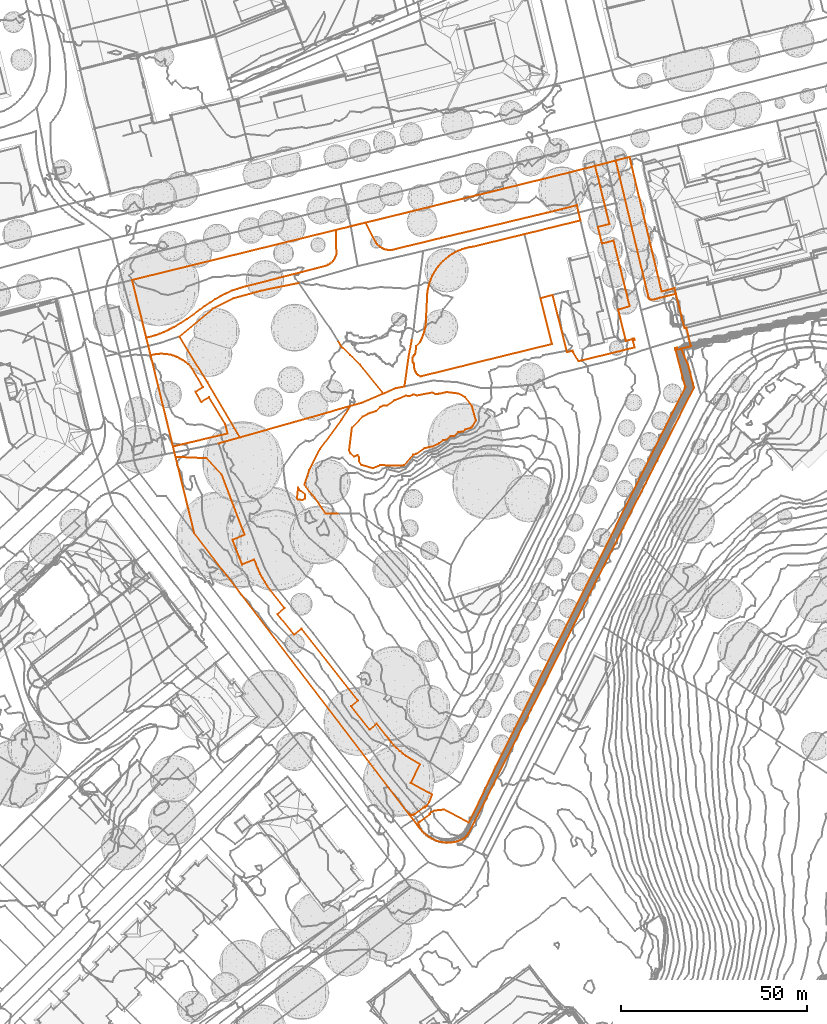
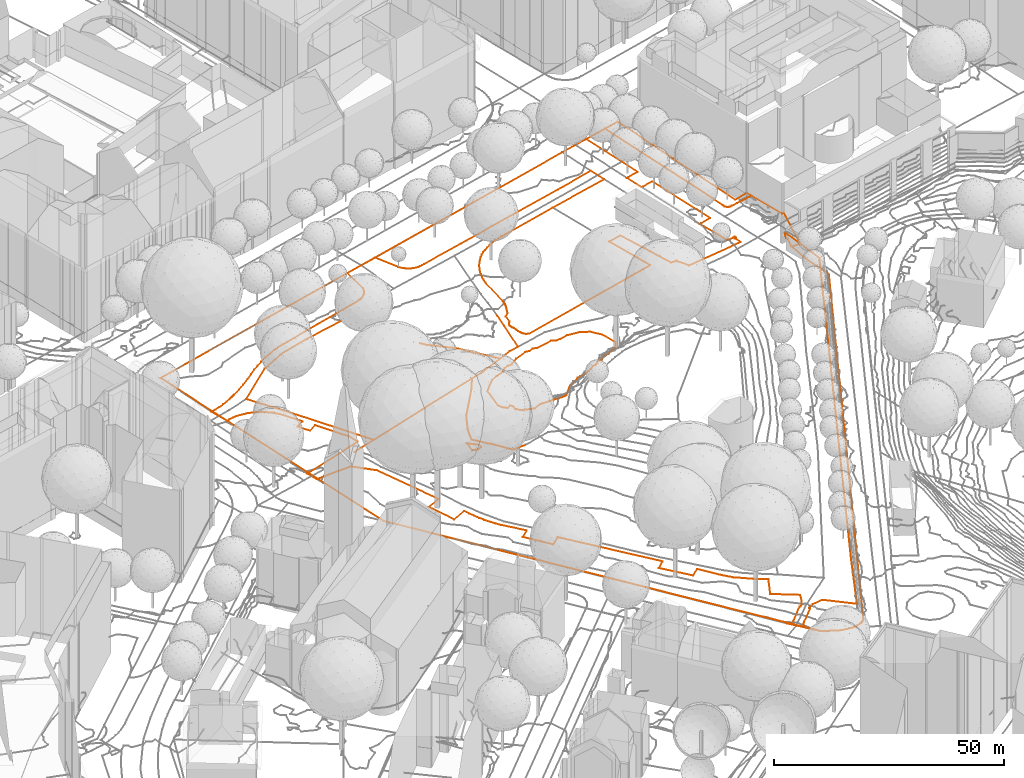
# Not in any storey, part 170 of 494: 14 proxies.
"""IFC2X3 model written with IfcOpenShell, lengths in metres."""

from ifc_helpers import new_model, entity, si_unit, frame, origin_with_axes, place, context, subcontext, project, element, save


model = new_model("IFC2X3")

# Units and contexts
model_context = context("Model", 3, precision=1e-05, world=origin_with_axes())
body_context = subcontext(model_context, "Body", "Model", "MODEL_VIEW")
ifc_project = project(units=[si_unit("AREAUNIT", "SQUARE_METRE"), si_unit("LENGTHUNIT", "METRE")], contexts=[model_context])

# Proxies
proxy_1_placement = place(None, frame((176.7457320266, 315.7657335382, 539.155), z_axis=(0.0, 0.0, 1.0), x_axis=(1.0, 0.0, 0.0)))
element("IfcBuildingElementProxy", 1, at=proxy_1_placement, Name="Road 10", ObjectType="NOTDEFINED", context=body_context, shape_type="GeometricCurveSet", body=[
    entity("IfcGeometricCurveSet", [entity("IfcPolyline", [entity("IfcCartesianPoint", [0.0, 0.0, 0.0]), entity("IfcCartesianPoint", [7.4880000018, -12.3349996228, 0.053]), entity("IfcCartesianPoint", [16.298, -27.1659991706, -0.083])])]),
])
proxy_2_placement = place(None, frame((187.3177320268, 286.9847344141, 538.828), z_axis=(0.0, 0.0, 1.0), x_axis=(1.0, 0.0, 0.0)))
element("IfcBuildingElementProxy", 2, at=proxy_2_placement, Name="Road 12", ObjectType="NOTDEFINED", context=body_context, shape_type="GeometricCurveSet", body=[
    entity("IfcGeometricCurveSet", [entity("IfcPolyline", [entity("IfcCartesianPoint", [5.7259999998, 1.6149999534, 0.244]), entity("IfcCartesianPoint", [0.0, 0.0, 0.0])])]),
])
proxy_3_placement = place(None, frame((176.7457320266, 315.7657335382, 539.155), z_axis=(0.0, 0.0, 1.0), x_axis=(1.0, 0.0, 0.0)))
element("IfcBuildingElementProxy", 3, at=proxy_3_placement, Name="Road 14", ObjectType="NOTDEFINED", context=body_context, shape_type="GeometricCurveSet", body=[
    entity("IfcGeometricCurveSet", [entity("IfcPolyline", [entity("IfcCartesianPoint", [32.1579999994, 14.3909995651, 0.748]), entity("IfcCartesianPoint", [22.0260000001, 12.3349996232, 0.605]), entity("IfcCartesianPoint", [14.5370000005, 10.2799996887, 0.52]), entity("IfcCartesianPoint", [8.9569999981, 7.4899997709, 0.381]), entity("IfcCartesianPoint", [0.0, 0.0, 0.0])])]),
])
proxy_4_placement = place(None, frame((222.6197320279, 310.777733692, 540.078), z_axis=(0.0, 0.0, 1.0), x_axis=(1.0, 0.0, 0.0)))
element("IfcBuildingElementProxy", 4, at=proxy_4_placement, Name="Road 15", ObjectType="NOTDEFINED", context=body_context, shape_type="GeometricCurveSet", body=[
    entity("IfcGeometricCurveSet", [entity("IfcPolyline", [entity("IfcCartesianPoint", [0.0, 0.0, 0.0]), entity("IfcCartesianPoint", [2.7309999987, -2.6469999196, 0.138]), entity("IfcCartesianPoint", [9.0409999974, -10.3629996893, -0.108])])]),
])
proxy_5_placement = place(None, frame((231.6607320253, 300.4147340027, 539.97), z_axis=(0.0, 0.0, 1.0), x_axis=(1.0, 0.0, 0.0)))
element("IfcBuildingElementProxy", 5, at=proxy_5_placement, Name="Road 61", ObjectType="NOTDEFINED", context=body_context, shape_type="GeometricCurveSet", body=[
    entity("IfcGeometricCurveSet", [entity("IfcPolyline", [entity("IfcCartesianPoint", [0.0, 0.0, 0.0]), entity("IfcCartesianPoint", [3.2349999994, 1.4009999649, -0.027]), entity("IfcCartesianPoint", [5.6420000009, 1.8969999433, 0.046])])]),
])
proxy_6_placement = place(None, frame((210.3617320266, 275.9087347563, 540.775), z_axis=(0.0, 0.0, 1.0), x_axis=(1.0, 0.0, 0.0)))
element("IfcBuildingElementProxy", 6, at=proxy_6_placement, Name="Road 69", ObjectType="NOTDEFINED", context=body_context, shape_type="GeometricCurveSet", body=[
    entity("IfcGeometricCurveSet", [entity("IfcPolyline", [entity("IfcCartesianPoint", [8.9970000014, -7.8669997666, 0.244]), entity("IfcCartesianPoint", [5.7369999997, -7.8669997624, 0.117]), entity("IfcCartesianPoint", [2.7199999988, -3.4619998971, 0.085]), entity("IfcCartesianPoint", [2.2609999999, -3.0319999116, 0.055]), entity("IfcCartesianPoint", [0.0, 0.0, 0.0]), entity("IfcCartesianPoint", [1.2919999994, 3.885999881, 0.0]), entity("IfcCartesianPoint", [4.1519999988, 9.4959997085, -0.77]), entity("IfcCartesianPoint", [10.0269999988, 17.4559994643, -0.894]), entity("IfcCartesianPoint", [12.3289999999, 21.1199993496, -0.85])])]),
])
proxy_7_placement = place(None, frame((193.0437320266, 288.5997343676, 539.072), z_axis=(0.0, 0.0, 1.0), x_axis=(1.0, 0.0, 0.0)))
element("IfcBuildingElementProxy", 7, at=proxy_7_placement, Name="Road 70", ObjectType="NOTDEFINED", context=body_context, shape_type="GeometricCurveSet", body=[
    entity("IfcGeometricCurveSet", [entity("IfcPolyline", [entity("IfcCartesianPoint", [0.0, 0.0, 0.0]), entity("IfcCartesianPoint", [14.5390000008, 4.1119998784, 0.455]), entity("IfcCartesianPoint", [29.6469999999, 8.4289997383, 0.853])])]),
])
proxy_8_placement = place(None, frame((222.6907320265, 297.0287341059, 539.925), z_axis=(0.0, 0.0, 1.0), x_axis=(1.0, 0.0, 0.0)))
element("IfcBuildingElementProxy", 8, at=proxy_8_placement, Name="Road 71", ObjectType="NOTDEFINED", context=body_context, shape_type="GeometricCurveSet", body=[
    entity("IfcGeometricCurveSet", [entity("IfcPolyline", [entity("IfcCartesianPoint", [0.0, 0.0, 0.0]), entity("IfcCartesianPoint", [3.3929999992, 0.9699999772, 0.09]), entity("IfcCartesianPoint", [8.9699999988, 3.3859998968, 0.045])])]),
])
proxy_9_placement = place(None, frame((219.4737320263, 314.4977335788, 539.821), z_axis=(0.0, 0.0, 1.0), x_axis=(1.0, 0.0, 0.0)))
element("IfcBuildingElementProxy", 9, at=proxy_9_placement, Name="Road 86", ObjectType="NOTDEFINED", context=body_context, shape_type="GeometricCurveSet", body=[
    entity("IfcGeometricCurveSet", [entity("IfcPolyline", [entity("IfcCartesianPoint", [0.0, 0.0, 0.0]), entity("IfcCartesianPoint", [1.0300000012, -1.6679999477, 0.15]), entity("IfcCartesianPoint", [3.1460000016, -3.7199998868, 0.257])])]),
])
proxy_10_placement = place(None, frame((237.3027320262, 302.311733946, 540.016), z_axis=(0.0, 0.0, 1.0), x_axis=(1.0, 0.0, 0.0)))
element("IfcBuildingElementProxy", 10, at=proxy_10_placement, Name="Road 102", ObjectType="NOTDEFINED", context=body_context, shape_type="GeometricCurveSet", body=[
    entity("IfcGeometricCurveSet", [entity("IfcPolyline", [entity("IfcCartesianPoint", [0.0, 0.0, 0.0]), entity("IfcCartesianPoint", [1.1160000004, 8.0219997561, 0.339]), entity("IfcCartesianPoint", [1.9519999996, 12.4769996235, 0.08])])]),
])
proxy_11_placement = place(None, frame((167.7977320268, 315.4537160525, 539.1190123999), z_axis=(0.0, 0.0, 1.0), x_axis=(1.0, 0.0, 0.0)))
element("IfcBuildingElementProxy", 11, at=proxy_11_placement, Name="Roads Outline 88", ObjectType="NOTDEFINED", context=body_context, shape_type="GeometricCurveSet", body=[
    entity("IfcGeometricCurveSet", [entity("IfcPolyline", [entity("IfcCartesianPoint", [0.0, 0.0, 0.0]), entity("IfcCartesianPoint", [1.23, 0.2749999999, 0.0247682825]), entity("IfcCartesianPoint", [2.4419999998, 0.622, 0.0418491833]), entity("IfcCartesianPoint", [3.6310000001, 1.0389999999, 0.0828519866]), entity("IfcCartesianPoint", [4.7939999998, 1.5249999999, 0.1121502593]), entity("IfcCartesianPoint", [5.9270000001, 2.078, 0.1517853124]), entity("IfcCartesianPoint", [6.3079999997, 2.273, 0.1626908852]), entity("IfcCartesianPoint", [6.6919999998, 2.4620000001, 0.1724767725]), entity("IfcCartesianPoint", [7.0729999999, 2.6539999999, 0.1835700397]), entity("IfcCartesianPoint", [7.4470000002, 2.8599999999, 0.1937299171]), entity("IfcCartesianPoint", [9.2280000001, 3.9239999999, 0.2538667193]), entity("IfcCartesianPoint", [10.9699999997, 5.0489999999, 0.3406741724]), entity("IfcCartesianPoint", [12.673, 6.2349999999, 0.3969343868]), entity("IfcCartesianPoint", [14.3319999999, 7.48, 0.4475886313]), entity("IfcCartesianPoint", [15.7029999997, 8.4979999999, 0.5061658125]), entity("IfcCartesianPoint", [17.1159999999, 9.459, 0.5333646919]), entity("IfcCartesianPoint", [18.5669999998, 10.3599999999, 0.5216708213]), entity("IfcCartesianPoint", [20.054, 11.2, 0.5452682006]), entity("IfcCartesianPoint", [21.5749999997, 11.977, 0.5502667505]), entity("IfcCartesianPoint", [23.1269999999, 12.6899999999, 0.621900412]), entity("IfcCartesianPoint", [24.409, 13.122, 0.6414065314]), entity("IfcCartesianPoint", [25.7069999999, 13.5079999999, 0.6457259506]), entity("IfcCartesianPoint", [27.017, 13.8459999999, 0.6606235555]), entity("IfcCartesianPoint", [36.0749999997, 16.176, 0.8224961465]), entity("IfcCartesianPoint", [45.6299999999, 18.628, 0.9505541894]), entity("IfcCartesianPoint", [48.5079999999, 19.3840000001, 1.0211709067]), entity("IfcCartesianPoint", [48.9980000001, 19.6099999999, 1.0363624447]), entity("IfcCartesianPoint", [49.4559999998, 19.8959999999, 1.0636517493]), entity("IfcCartesianPoint", [49.875, 20.236, 1.0910575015]), entity("IfcCartesianPoint", [50.2480000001, 20.625, 1.1108906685]), entity("IfcCartesianPoint", [50.5699999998, 21.058, 1.119086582]), entity("IfcCartesianPoint", [50.8360000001, 21.527, 1.1349815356]), entity("IfcCartesianPoint", [51.0409999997, 22.0260000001, 1.1584559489]), entity("IfcCartesianPoint", [51.1829999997, 22.547, 1.1813867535]), entity("IfcCartesianPoint", [51.057, 28.9979999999, 1.4121354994]), entity("IfcCartesianPoint", [59.0490000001, 30.9620000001, 1.4512466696]), entity("IfcCartesianPoint", [61.8079999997, 25.638, 1.2332053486]), entity("IfcCartesianPoint", [62.1400000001, 25.1839999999, 1.223659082]), entity("IfcCartesianPoint", [62.5260000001, 24.7760000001, 1.2173980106]), entity("IfcCartesianPoint", [62.96, 24.419, 1.2155958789]), entity("IfcCartesianPoint", [63.4350000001, 24.1199999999, 1.2076188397]), entity("IfcCartesianPoint", [63.9449999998, 23.8829999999, 1.1877098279]), entity("IfcCartesianPoint", [64.48, 23.7120000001, 1.1826396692]), entity("IfcCartesianPoint", [65.0329999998, 23.6089999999, 1.1826437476]), entity("IfcCartesianPoint", [65.594, 23.577, 1.1808178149]), entity("IfcCartesianPoint", [66.1540000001, 23.6159999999, 1.1845281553]), entity("IfcCartesianPoint", [66.7059999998, 23.7249999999, 1.1892558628]), entity("IfcCartesianPoint", [67.2390000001, 23.902, 1.1950226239]), entity("IfcCartesianPoint", [78.0649999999, 26.504, 1.2867964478]), entity("IfcCartesianPoint", [79.6359999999, 26.889, 1.3133347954]), entity("IfcCartesianPoint", [106.3089999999, 33.2409999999, 1.6732010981]), entity("IfcCartesianPoint", [107.8789999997, 33.622, 1.6832727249]), entity("IfcCartesianPoint", [115.9249999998, 35.649, 1.7806102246]), entity("IfcCartesianPoint", [116.898, 31.544, 1.6638894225]), entity("IfcCartesianPoint", [101.8169999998, 27.858, 1.6404392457]), entity("IfcCartesianPoint", [88.0010000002, 24.473, 1.4170740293]), entity("IfcCartesianPoint", [87.0, 24.3200000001, 1.3737373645]), entity("IfcCartesianPoint", [86.0129999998, 24.0959999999, 1.3122562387]), entity("IfcCartesianPoint", [85.0449999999, 23.8, 1.2736646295]), entity("IfcCartesianPoint", [84.1000000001, 23.436, 1.2231697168]), entity("IfcCartesianPoint", [83.1839999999, 23.004, 1.1887243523]), entity("IfcCartesianPoint", [82.3020000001, 22.5079999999, 1.1771721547]), entity("IfcCartesianPoint", [81.4569999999, 21.949, 1.1588859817]), entity("IfcCartesianPoint", [80.656, 21.331, 1.178832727]), entity("IfcCartesianPoint", [79.9010000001, 20.656, 1.2104499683]), entity("IfcCartesianPoint", [79.196, 19.929, 1.2222075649]), entity("IfcCartesianPoint", [78.5460000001, 19.1529999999, 1.1966565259]), entity("IfcCartesianPoint", [77.9539999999, 18.3319999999, 1.1546735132]), entity("IfcCartesianPoint", [77.4219999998, 17.47, 1.0927785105]), entity("IfcCartesianPoint", [76.9539999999, 16.5719999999, 1.0256709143]), entity("IfcCartesianPoint", [76.5520000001, 15.6429999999, 0.9550855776]), entity("IfcCartesianPoint", [76.2179999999, 14.6869999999, 0.8982017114]), entity("IfcCartesianPoint", [75.9539999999, 13.71, 0.8575851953]), entity("IfcCartesianPoint", [75.7609999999, 12.716, 0.8104525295]), entity("IfcCartesianPoint", [75.6400000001, 11.7109999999, 0.7646408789]), entity("IfcCartesianPoint", [75.227, 3.5719999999, 0.967397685]), entity("IfcCartesianPoint", [75.1260000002, 2.8829999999, 1.0286340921]), entity("IfcCartesianPoint", [74.983, 2.2009999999, 1.0824014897]), entity("IfcCartesianPoint", [74.9389999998, 2.024, 1.1072632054]), entity("IfcCartesianPoint", [74.892, 1.8470000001, 1.1307639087]), entity("IfcCartesianPoint", [74.7689999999, 1.429, 1.1800219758]), entity("IfcCartesianPoint", [74.6299999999, 1.0149999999, 1.2049191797]), entity("IfcCartesianPoint", [74.4890000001, 0.639, 1.2044462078]), entity("IfcCartesianPoint", [74.335, 0.2679999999, 1.1930262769]), entity("IfcCartesianPoint", [74.2039999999, -0.067, 1.1881508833]), entity("IfcCartesianPoint", [73.9529999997, -0.6699999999, 1.1874007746]), entity("IfcCartesianPoint", [73.6850000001, -1.2650000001, 1.2009177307]), entity("IfcCartesianPoint", [72.6829999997, -2.267, 1.2418795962]), entity("IfcCartesianPoint", [72.398, -4.486, 1.3121913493]), entity("IfcCartesianPoint", [72.1179999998, -4.7210000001, 1.2992383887]), entity("IfcCartesianPoint", [71.8930000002, -5.01, 1.2894331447]), entity("IfcCartesianPoint", [71.736, -5.3400000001, 1.2844921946]), entity("IfcCartesianPoint", [71.6510000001, -5.696, 1.2850829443]), entity("IfcCartesianPoint", [71.6439999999, -6.0619999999, 1.2769994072]), entity("IfcCartesianPoint", [71.7140000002, -6.4210000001, 1.270053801]), entity("IfcCartesianPoint", [71.8590000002, -6.757, 1.2694203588]), entity("IfcCartesianPoint", [72.071, -7.0549999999, 1.2787490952]), entity("IfcCartesianPoint", [72.057, -7.541, 1.2691529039]), entity("IfcCartesianPoint", [72.105, -8.0250000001, 1.2563769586]), entity("IfcCartesianPoint", [72.213, -8.4990000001, 1.2388046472]), entity("IfcCartesianPoint", [72.3810000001, -8.956, 1.217708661]), entity("IfcCartesianPoint", [72.6060000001, -9.388, 1.1956496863]), entity("IfcCartesianPoint", [72.8829999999, -9.787, 1.1700826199]), entity("IfcCartesianPoint", [73.2080000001, -10.149, 1.1795551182]), entity("IfcCartesianPoint", [73.821, -10.442, 1.2056348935]), entity("IfcCartesianPoint", [109.2149999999, -1.72, 1.7118456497]), entity("IfcCartesianPoint", [106.1299999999, 10.615, 1.6020691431]), entity("IfcCartesianPoint", [109.3969999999, 11.4809999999, 1.5600288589]), entity("IfcCartesianPoint", [113.2510000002, -3.906, 2.3029735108]), entity("IfcCartesianPoint", [114.827, -3.517, 2.0630988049]), entity("IfcCartesianPoint", [114.923, -3.905, 2.067803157]), entity("IfcCartesianPoint", [116.3769999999, -6.3489999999, 1.9570229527]), entity("IfcCartesianPoint", [131.5069999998, -2.645, 0.6462606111]), entity("IfcCartesianPoint", [131.0060000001, -0.8090000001, 0.6326984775]), entity("IfcCartesianPoint", [131.4909999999, -0.686, 0.5929234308]), entity("IfcCartesianPoint", [131.3689999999, -0.202, 0.5887255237]), entity("IfcCartesianPoint", [130.8840000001, -0.324, 0.6409020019]), entity("IfcCartesianPoint", [130.9079999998, -0.4199999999, 0.6387613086]), entity("IfcCartesianPoint", [129.1310000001, -0.8670000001, 0.8788356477]), entity("IfcCartesianPoint", [127.0600000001, 7.554, 0.8088673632]), entity("IfcCartesianPoint", [127.4890000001, 7.6739999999, 0.7622808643]), entity("IfcCartesianPoint", [130.1639999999, 8.425, 0.7708454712]), entity("IfcCartesianPoint", [125.8089999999, 26.0970000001, 1.2899789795]), entity("IfcCartesianPoint", [123.1680000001, 25.4469999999, 1.2818078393]), entity("IfcCartesianPoint", [122.6889999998, 25.3289999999, 1.2910866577]), entity("IfcCartesianPoint", [121.588, 29.804, 1.4678332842]), entity("IfcCartesianPoint", [122.068, 29.922, 1.4667258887]), entity("IfcCartesianPoint", [124.7059999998, 30.571, 1.494156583]), entity("IfcCartesianPoint", [120.8459999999, 46.233, 2.0636904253]), entity("IfcCartesianPoint", [120.8590000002, 46.237, 2.06439677]), entity("IfcCartesianPoint", [126.4070000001, 47.673, 2.02311273]), entity("IfcCartesianPoint", [135.0919999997, 11.3969999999, 0.6650601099]), entity("IfcCartesianPoint", [135.102, 11.1059999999, 0.6661332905]), entity("IfcCartesianPoint", [135.1880000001, 10.828, 0.6454258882]), entity("IfcCartesianPoint", [135.3449999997, 10.5819999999, 0.6247838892]), entity("IfcCartesianPoint", [135.5600000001, 10.3859999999, 0.6073768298]), entity("IfcCartesianPoint", [135.8190000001, 10.253, 0.5982929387]), entity("IfcCartesianPoint", [136.1039999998, 10.1939999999, 0.5950590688]), entity("IfcCartesianPoint", [136.395, 10.2109999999, 0.5922139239]), entity("IfcCartesianPoint", [136.6710000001, 10.304, 0.5861962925]), entity("IfcCartesianPoint", [138.3199999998, 10.7239999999, 0.488661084]), entity("IfcCartesianPoint", [142.5819999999, 11.8089999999, 0.3420835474]), entity("IfcCartesianPoint", [144.8939999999, 2.5889999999, 0.3526834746]), entity("IfcCartesianPoint", [145.4040000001, 2.709, 0.3502368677]), entity("IfcCartesianPoint", [146.6439999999, -2.341, -5.2313089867]), entity("IfcCartesianPoint", [146.432, -2.3929999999, -5.2436507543]), entity("IfcCartesianPoint", [144.0320000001, -2.98, -4.7871117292]), entity("IfcCartesianPoint", [143.003, -3.2320000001, -2.1408371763]), entity("IfcCartesianPoint", [142.8760000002, -2.75, -2.1907489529]), entity("IfcCartesianPoint", [142.392, -2.8770000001, -0.6498669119]), entity("IfcCartesianPoint", [142.5189999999, -3.3589999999, -0.4944391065]), entity("IfcCartesianPoint", [145.125, -13.257, -2.0117076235]), entity("IfcCartesianPoint", [94.0690000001, -115.4890000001, -2.0948531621]), entity("IfcCartesianPoint", [86.8279999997, -130.6230000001, -2.2323743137]), entity("IfcCartesianPoint", [80.1319999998, -127.064, -0.9714893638]), entity("IfcCartesianPoint", [77.5899999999, -127.3430000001, -1.0788913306]), entity("IfcCartesianPoint", [76.6829999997, -127.777, -1.1398480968]), entity("IfcCartesianPoint", [76.2229999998, -128.1140000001, -1.217925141]), entity("IfcCartesianPoint", [76.3649999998, -128.308, -1.2043424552]), entity("IfcCartesianPoint", [73.693, -130.2709999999, -2.7361494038]), entity("IfcCartesianPoint", [73.4819999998, -130.4739999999, -2.8656039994]), entity("IfcCartesianPoint", [73.3300000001, -130.7250000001, -2.9745926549]), entity("IfcCartesianPoint", [73.2489999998, -131.007, -3.0815037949]), entity("IfcCartesianPoint", [73.2439999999, -131.3, -3.1489841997]), entity("IfcCartesianPoint", [73.3149999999, -131.584, -3.184297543]), entity("IfcCartesianPoint", [73.4580000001, -131.8400000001, -3.1874261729]), entity("IfcCartesianPoint", [70.6809999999, -128.2040000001, -3.2684583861]), entity("IfcCartesianPoint", [70.9019999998, -128.3770000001, -3.2804389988]), entity("IfcCartesianPoint", [71.1570000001, -128.4939999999, -3.2809493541]), entity("IfcCartesianPoint", [71.4329999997, -128.5460000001, -3.2535916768]), entity("IfcCartesianPoint", [71.7140000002, -128.5320000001, -3.1586144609]), entity("IfcCartesianPoint", [71.983, -128.452, -3.0439791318]), entity("IfcCartesianPoint", [72.2250000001, -128.3100000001, -2.9152179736]), entity("IfcCartesianPoint", [74.8730000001, -126.3049999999, -1.3330918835]), entity("IfcCartesianPoint", [75.0180000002, -126.496, -1.3188504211]), entity("IfcCartesianPoint", [75.4729999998, -126.152, -1.1691149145]), entity("IfcCartesianPoint", [76.1600000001, -124.996, -1.0796673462]), entity("IfcCartesianPoint", [76.9339999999, -123.048, -0.9712881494]), entity("IfcCartesianPoint", [71.21, -119.8929999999, -0.6533056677]), entity("IfcCartesianPoint", [73.6379999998, -114.8900000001, -0.5353668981]), entity("IfcCartesianPoint", [70.8969999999, -113.2679999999, -0.532951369]), entity("IfcCartesianPoint", [70.8879999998, -113.2380000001, -0.5327554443]), entity("IfcCartesianPoint", [69.9509999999, -112.632, -0.4967809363]), entity("IfcCartesianPoint", [69.0520000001, -111.9720000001, -0.4653612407]), entity("IfcCartesianPoint", [68.193, -111.2609999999, -0.4917337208]), entity("IfcCartesianPoint", [67.378, -110.5, -0.5794491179]), entity("IfcCartesianPoint", [66.6090000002, -109.692, -0.556969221]), entity("IfcCartesianPoint", [65.8879999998, -108.8400000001, -0.5849159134]), entity("IfcCartesianPoint", [65.219, -107.9480000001, -0.602107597]), entity("IfcCartesianPoint", [62.0150000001, -103.9450000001, -0.4566242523]), entity("IfcCartesianPoint", [60.1209999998, -105.5449999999, -0.5537252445]), entity("IfcCartesianPoint", [55.1299999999, -99.2679999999, -0.6205194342]), entity("IfcCartesianPoint", [57.0010000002, -97.672, -0.4736681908]), entity("IfcCartesianPoint", [41.7760000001, -78.3530000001, -0.4519177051]), entity("IfcCartesianPoint", [39.7820000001, -79.9480000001, -0.7221621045]), entity("IfcCartesianPoint", [35.3130000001, -74.3959999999, -0.5014826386]), entity("IfcCartesianPoint", [37.2259999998, -72.78, -0.430920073]), entity("IfcCartesianPoint", [33.5039999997, -68.0919999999, -0.5242395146]), entity("IfcCartesianPoint", [32.7029999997, -66.9920000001, -0.5036792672]), entity("IfcCartesianPoint", [31.9550000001, -65.855, -0.4710563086]), entity("IfcCartesianPoint", [31.2629999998, -64.683, -0.4507716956]), entity("IfcCartesianPoint", [30.628, -63.48, -0.4294886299]), entity("IfcCartesianPoint", [30.051, -62.2480000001, -0.4048566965]), entity("IfcCartesianPoint", [29.5329999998, -60.9890000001, -0.3785168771]), entity("IfcCartesianPoint", [29.077, -59.7069999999, -0.3286873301]), entity("IfcCartesianPoint", [25.8029999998, -61.0549999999, -0.6157022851]), entity("IfcCartesianPoint", [23.179, -54.4350000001, -0.392617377]), entity("IfcCartesianPoint", [26.4929999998, -53.095, -0.2904464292]), entity("IfcCartesianPoint", [20.3139999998, -36.8290000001, -0.3418651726]), entity("IfcCartesianPoint", [16.2709999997, -32.49, -0.5566903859]), entity("IfcCartesianPoint", [7.8879999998, -32.1140000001, -1.2005508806]), entity("IfcCartesianPoint", [7.1949999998, -29.2960000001, -1.215604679]), entity("IfcCartesianPoint", [21.889, -25.8300000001, 0.0348052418]), entity("IfcCartesianPoint", [21.2579999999, -23.28, 0.0536242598]), entity("IfcCartesianPoint", [16.8489999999, -16.0360000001, 0.204409]), entity("IfcCartesianPoint", [14.8279999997, -17.298, 0.2311249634]), entity("IfcCartesianPoint", [13.2259999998, -14.5900000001, 0.2540834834]), entity("IfcCartesianPoint", [15.2480000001, -13.3290000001, 0.1844319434]), entity("IfcCartesianPoint", [12.4380000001, -8.452, 0.1062723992]), entity("IfcCartesianPoint", [11.8569999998, -7.7660000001, 0.1084622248]), entity("IfcCartesianPoint", [11.2199999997, -7.132, 0.1095255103]), entity("IfcCartesianPoint", [10.5320000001, -6.554, 0.1109810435]), entity("IfcCartesianPoint", [9.7969999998, -6.0360000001, 0.1014966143]), entity("IfcCartesianPoint", [9.0209999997, -5.5819999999, 0.114182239]), entity("IfcCartesianPoint", [8.21, -5.196, 0.146653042]), entity("IfcCartesianPoint", [7.3679999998, -4.8800000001, 0.1419173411]), entity("IfcCartesianPoint", [6.503, -4.6359999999, 0.1392912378]), entity("IfcCartesianPoint", [5.6209999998, -4.4669999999, 0.1083604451]), entity("IfcCartesianPoint", [4.727, -4.3730000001, 0.1113422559]), entity("IfcCartesianPoint", [3.8279999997, -4.355, 0.1566777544]), entity("IfcCartesianPoint", [2.9309999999, -4.4129999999, 0.1362928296]), entity("IfcCartesianPoint", [2.0419999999, -4.5460000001, 0.0647391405]), entity("IfcCartesianPoint", [1.1680000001, -4.7550000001, 0.0281299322]), entity("IfcCartesianPoint", [0.0, 0.0, 0.0])])]),
])
proxy_12_placement = place(None, frame((163.9887320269, 330.9667160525, 539.9991781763), z_axis=(0.0, 0.0, 1.0), x_axis=(1.0, 0.0, 0.0)))
element("IfcBuildingElementProxy", 12, at=proxy_12_placement, Name="Cadastre 5", ObjectType="NOTDEFINED", context=body_context, shape_type="GeometricCurveSet", body=[
    entity("IfcGeometricCurveSet", [entity("IfcPolyline", [entity("IfcCartesianPoint", [0.0, 0.0, 0.0]), entity("IfcCartesianPoint", [117.656, 28.9099999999, 1.2242919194]), entity("IfcCartesianPoint", [133.929, 33.1199999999, 1.0876846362]), entity("IfcCartesianPoint", [142.5669999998, -3.0930000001, -0.6893949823]), entity("IfcCartesianPoint", [146.0219999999, -2.233, -0.5583136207]), entity("IfcCartesianPoint", [148.7029999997, -12.9240000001, -0.5274823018]), entity("IfcCartesianPoint", [149.213, -12.804, -0.5299289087]), entity("IfcCartesianPoint", [150.4529999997, -17.8540000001, -6.1114747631]), entity("IfcCartesianPoint", [147.841, -18.493, -5.6672775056]), entity("IfcCartesianPoint", [149.6809999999, -22.831, -7.4376878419]), entity("IfcCartesianPoint", [151.2279999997, -28.959, -7.8872139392]), entity("IfcCartesianPoint", [90.605, -148.8940000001, -5.1347359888]), entity("IfcCartesianPoint", [90.338, -149.3430000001, -5.1719771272]), entity("IfcCartesianPoint", [90.014, -149.7520000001, -5.0969268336]), entity("IfcCartesianPoint", [89.6369999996, -150.1130000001, -5.0735767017]), entity("IfcCartesianPoint", [89.2149999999, -150.4210000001, -5.1062546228]), entity("IfcCartesianPoint", [88.7560000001, -150.669, -4.9828618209]), entity("IfcCartesianPoint", [88.0419999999, -150.959, -4.8724821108]), entity("IfcCartesianPoint", [87.307, -151.1880000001, -4.8934175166]), entity("IfcCartesianPoint", [86.554, -151.3540000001, -4.8416267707]), entity("IfcCartesianPoint", [85.7909999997, -151.4570000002, -4.6712733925]), entity("IfcCartesianPoint", [85.0209999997, -151.4950000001, -4.5468812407]), entity("IfcCartesianPoint", [84.2519999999, -151.4680000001, -4.4873598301]), entity("IfcCartesianPoint", [83.4869999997, -151.3770000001, -4.4492794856]), entity("IfcCartesianPoint", [82.7319999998, -151.2210000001, -4.384160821]), entity("IfcCartesianPoint", [81.9929999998, -151.0020000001, -4.2356118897]), entity("IfcCartesianPoint", [81.2749999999, -150.7220000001, -4.1893830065]), entity("IfcCartesianPoint", [80.5829999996, -150.382, -4.2677957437]), entity("IfcCartesianPoint", [79.9219999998, -149.986, -4.2010340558]), entity("IfcCartesianPoint", [79.2969999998, -149.5350000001, -4.2910561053]), entity("IfcCartesianPoint", [78.7109999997, -149.0330000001, -4.1280212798]), entity("IfcCartesianPoint", [78.1709999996, -148.4840000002, -4.065973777]), entity("IfcCartesianPoint", [77.6779999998, -147.8910000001, -4.0521186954]), entity("IfcCartesianPoint", [16.7229999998, -68.0930000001, -2.5447763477]), entity("IfcCartesianPoint", [0.0, 0.0, 0.0])])]),
])
proxy_13_placement = place(None, frame((222.3997096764, 285.1707160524, 540.0), z_axis=(0.0, 0.0, 1.0), x_axis=(1.0, 0.0, 0.0)))
element("IfcBuildingElementProxy", 13, at=proxy_13_placement, Name="Contour Line 540.0 m", ObjectType="NOTDEFINED", context=body_context, shape_type="GeometricCurveSet", body=[
    entity("IfcGeometricCurveSet", [entity("IfcPolyline", [entity("IfcCartesianPoint", [14.2780223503, -4.200677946, 0.0]), entity("IfcCartesianPoint", [14.8418956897, -4.0, 0.0]), entity("IfcCartesianPoint", [17.2780223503, -1.2704251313, 0.0]), entity("IfcCartesianPoint", [18.1569128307, -1.0, 0.0]), entity("IfcCartesianPoint", [20.2780223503, 0.5239472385, 0.0]), entity("IfcCartesianPoint", [22.5003856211, 1.0, 0.0]), entity("IfcCartesianPoint", [24.2780223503, 1.8492537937, 0.0]), entity("IfcCartesianPoint", [25.2780223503, 2.6595540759, 0.0]), entity("IfcCartesianPoint", [26.2780223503, 2.8440700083, 0.0]), entity("IfcCartesianPoint", [27.2780223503, 3.8352576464, 0.0]), entity("IfcCartesianPoint", [28.2780223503, 3.8353741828, 0.0]), entity("IfcCartesianPoint", [29.2780223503, 4.8255260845, 0.0]), entity("IfcCartesianPoint", [30.7136665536, 5.0, 0.0]), entity("IfcCartesianPoint", [31.2780223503, 5.5643557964, 0.0]), entity("IfcCartesianPoint", [32.8226039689, 6.0, 0.0]), entity("IfcCartesianPoint", [33.2780223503, 6.4642210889, 0.0]), entity("IfcCartesianPoint", [34.1294163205, 8.0, 0.0]), entity("IfcCartesianPoint", [33.0236827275, 12.0, 0.0]), entity("IfcCartesianPoint", [31.2780223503, 14.274414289, 0.0]), entity("IfcCartesianPoint", [29.2780223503, 15.2204148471, 0.0]), entity("IfcCartesianPoint", [26.2780223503, 15.6066552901, 0.0]), entity("IfcCartesianPoint", [24.2780223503, 15.1576212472, 0.0]), entity("IfcCartesianPoint", [23.2780223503, 15.0968250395, 0.0]), entity("IfcCartesianPoint", [22.2780223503, 15.4865372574, 0.0]), entity("IfcCartesianPoint", [18.2780223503, 14.7055376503, 0.0]), entity("IfcCartesianPoint", [17.2780223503, 14.9908092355, 0.0]), entity("IfcCartesianPoint", [16.2780223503, 14.5048675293, 0.0]), entity("IfcCartesianPoint", [15.2780223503, 14.6664239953, 0.0]), entity("IfcCartesianPoint", [12.2780223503, 13.4125895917, 0.0]), entity("IfcCartesianPoint", [10.2780223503, 12.0114772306, 0.0]), entity("IfcCartesianPoint", [9.2780223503, 11.9978425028, 0.0]), entity("IfcCartesianPoint", [8.2780223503, 11.5651754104, 0.0]), entity("IfcCartesianPoint", [7.2780223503, 10.4851485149, 0.0]), entity("IfcCartesianPoint", [5.2780223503, 9.8719856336, 0.0]), entity("IfcCartesianPoint", [3.6165961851, 9.0, 0.0]), entity("IfcCartesianPoint", [0.7471531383, 6.0, 0.0]), entity("IfcCartesianPoint", [0.0, 0.0, 0.0]), entity("IfcCartesianPoint", [0.3843429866, -1.0, 0.0]), entity("IfcCartesianPoint", [1.2780223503, -1.8023299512, 0.0]), entity("IfcCartesianPoint", [2.2780223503, -1.3032928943, 0.0]), entity("IfcCartesianPoint", [2.7261828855, -2.0, 0.0]), entity("IfcCartesianPoint", [2.6151100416, -3.0, 0.0]), entity("IfcCartesianPoint", [3.3492197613, -4.0, 0.0]), entity("IfcCartesianPoint", [6.2780223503, -4.8955420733, 0.0]), entity("IfcCartesianPoint", [8.2780223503, -4.0744129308, 0.0]), entity("IfcCartesianPoint", [14.2780223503, -4.200677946, 0.0])])]),
])
proxy_14_placement = place(None, frame((208.3568235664, 272.1707160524, 541.0), z_axis=(0.0, 0.0, 1.0), x_axis=(1.0, 0.0, 0.0)))
element("IfcBuildingElementProxy", 14, at=proxy_14_placement, Name="Contour Line 541.0 m", ObjectType="NOTDEFINED", context=body_context, shape_type="GeometricCurveSet", body=[
    entity("IfcGeometricCurveSet", [entity("IfcPolyline", [entity("IfcCartesianPoint", [2.2368870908, 0.0, 0.0]), entity("IfcCartesianPoint", [1.3209084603, -0.466312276, 0.0]), entity("IfcCartesianPoint", [0.3209084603, -0.3096871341, 0.0]), entity("IfcCartesianPoint", [0.0, 0.0, 0.0]), entity("IfcCartesianPoint", [0.3209084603, 2.9313276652, 0.0]), entity("IfcCartesianPoint", [0.9807787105, 2.0, 0.0]), entity("IfcCartesianPoint", [2.2258290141, 1.0, 0.0]), entity("IfcCartesianPoint", [2.2368870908, 0.0, 0.0])])]),
])

save(model, "model.ifc")
